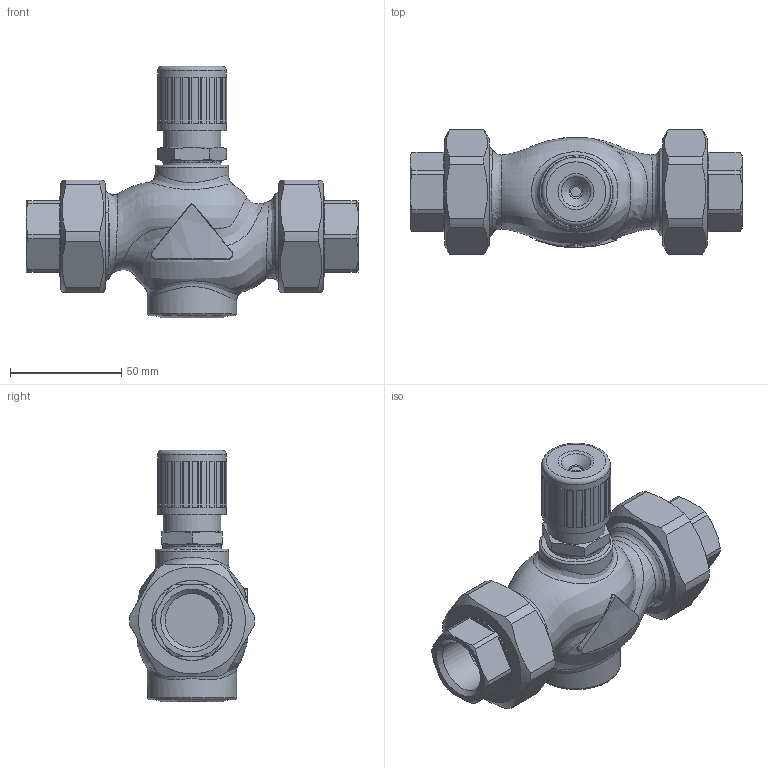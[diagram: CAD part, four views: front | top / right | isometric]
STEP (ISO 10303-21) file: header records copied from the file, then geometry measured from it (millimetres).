
FILE_DESCRIPTION(/* description */ (''),/* implementation_level */ '2;1');
FILE_NAME(/* name */ 'rv111r_dn20_2_T.stp',/* time_stamp */ '2012-02-21T11:21:22+01:00',/* author */ ('KLIMES'),/* organization */ ('LDM'),/* preprocessor_version */ 'ST-DEVELOPER v11',/* originating_system */ 'SIEMENS PLM Software NX 7.0',/* authorisation */ '');
FILE_SCHEMA (('CONFIG_CONTROL_DESIGN'));
Length unit declared in the file: millimetre
Products named in the file (1): klim56BEqbit
Bounding box: 149 x 55.98 x 112.9 mm (x, y, z)
Volume: 263809 mm3; surface area: 58625.6 mm2
Topology: 8 solids, 8 shells, 316 faces, 748 edges, 485 vertices
Faces by surface type: plane 171, cone 63, cylinder 43, bspline 25, torus 14
Full cylindrical faces by diameter (mm): 8 x1, 23.4 x1, 24.117 x3, 26 x1, 26.5 x1, 27.5 x2, 28 x2, 30.8 x1, 32.5 x1, 33 x1, 35.8 x2, 36 x2, 38 x2, 38.8 x2, 38.952 x2, 40 x1, 41.91 x2
Entity records: 14501 total; most frequent: CARTESIAN_POINT 7599, DIRECTION 1390, ORIENTED_EDGE 1328, EDGE_CURVE 664, AXIS2_PLACEMENT_3D 557, VERTEX_POINT 460, EDGE_LOOP 424, ADVANCED_FACE 316
